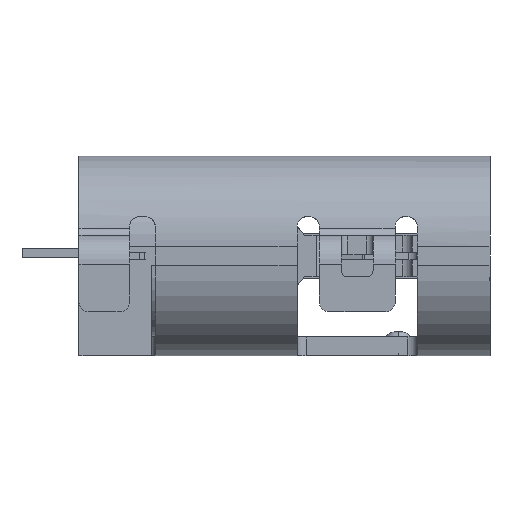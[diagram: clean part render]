
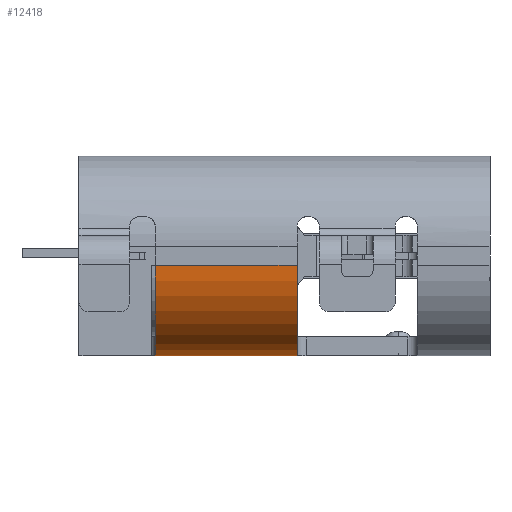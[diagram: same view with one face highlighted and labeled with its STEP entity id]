
A CAD part, left-side view. The second image highlights one B-rep face of the part: STEP entity #12418.
In plain terms, the highlighted cylindrical face has radius 1.43 mm (diameter 2.86 mm), a partial arc.
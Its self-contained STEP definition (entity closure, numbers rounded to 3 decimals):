
#638 = DIRECTION ( 'NONE',  ( 0., -1., 0. ) ) ;
#923 = VERTEX_POINT ( 'NONE', #26413 ) ;
#2176 = ORIENTED_EDGE ( 'NONE', *, *, #21035, .T. ) ;
#2541 = CARTESIAN_POINT ( 'NONE',  ( -4.47, 4.325, 2.43 ) ) ;
#3863 = VERTEX_POINT ( 'NONE', #2541 ) ;
#4783 = CARTESIAN_POINT ( 'NONE',  ( -3.04, 0., 2.43 ) ) ;
#5132 = CARTESIAN_POINT ( 'NONE',  ( -3.04, 4.325, 1. ) ) ;
#7459 = ORIENTED_EDGE ( 'NONE', *, *, #25356, .T. ) ;
#8343 = CYLINDRICAL_SURFACE ( 'NONE', #14086, 1.43 ) ;
#9553 = CARTESIAN_POINT ( 'NONE',  ( -4.47, 6.57, 2.43 ) ) ;
#11789 = DIRECTION ( 'NONE',  ( 0., 1., 0. ) ) ;
#12418 = ADVANCED_FACE ( 'NONE', ( #38815 ), #8343, .T. ) ;
#13257 = EDGE_CURVE ( 'NONE', #32228, #3863, #22443, .T. ) ;
#14086 = AXIS2_PLACEMENT_3D ( 'NONE', #4783, #42829, #35917 ) ;
#14222 = DIRECTION ( 'NONE',  ( 0., 1., 0. ) ) ;
#16388 = CARTESIAN_POINT ( 'NONE',  ( -4.47, 6.57, 2.43 ) ) ;
#17453 = ORIENTED_EDGE ( 'NONE', *, *, #13257, .F. ) ;
#17965 = VERTEX_POINT ( 'NONE', #18766 ) ;
#18766 = CARTESIAN_POINT ( 'NONE',  ( -3.04, 6.57, 1. ) ) ;
#18877 = ORIENTED_EDGE ( 'NONE', *, *, #22249, .F. ) ;
#21035 = EDGE_CURVE ( 'NONE', #32228, #17965, #33178, .T. ) ;
#22249 = EDGE_CURVE ( 'NONE', #923, #17965, #35606, .T. ) ;
#22443 = LINE ( 'NONE', #9553, #26873 ) ;
#23107 = DIRECTION ( 'NONE',  ( 0., -1., 0. ) ) ;
#23220 = AXIS2_PLACEMENT_3D ( 'NONE', #31091, #638, #42009 ) ;
#25356 = EDGE_CURVE ( 'NONE', #923, #3863, #37802, .T. ) ;
#26413 = CARTESIAN_POINT ( 'NONE',  ( -3.04, 4.325, 1. ) ) ;
#26873 = VECTOR ( 'NONE', #23107, 1000. ) ;
#31091 = CARTESIAN_POINT ( 'NONE',  ( -3.04, 6.57, 2.43 ) ) ;
#31801 = VECTOR ( 'NONE', #11789, 1000. ) ;
#32228 = VERTEX_POINT ( 'NONE', #16388 ) ;
#33178 = CIRCLE ( 'NONE', #23220, 1.43 ) ;
#35126 = DIRECTION ( 'NONE',  ( 0., 0., -1. ) ) ;
#35606 = LINE ( 'NONE', #5132, #31801 ) ;
#35917 = DIRECTION ( 'NONE',  ( 0., 0., -1. ) ) ;
#36902 = EDGE_LOOP ( 'NONE', ( #17453, #2176, #18877, #7459 ) ) ;
#37802 = CIRCLE ( 'NONE', #43528, 1.43 ) ;
#38815 = FACE_OUTER_BOUND ( 'NONE', #36902, .T. ) ;
#41150 = CARTESIAN_POINT ( 'NONE',  ( -3.04, 4.325, 2.43 ) ) ;
#42009 = DIRECTION ( 'NONE',  ( -1., 0., 0. ) ) ;
#42829 = DIRECTION ( 'NONE',  ( 0., -1., 0. ) ) ;
#43528 = AXIS2_PLACEMENT_3D ( 'NONE', #41150, #14222, #35126 ) ;
